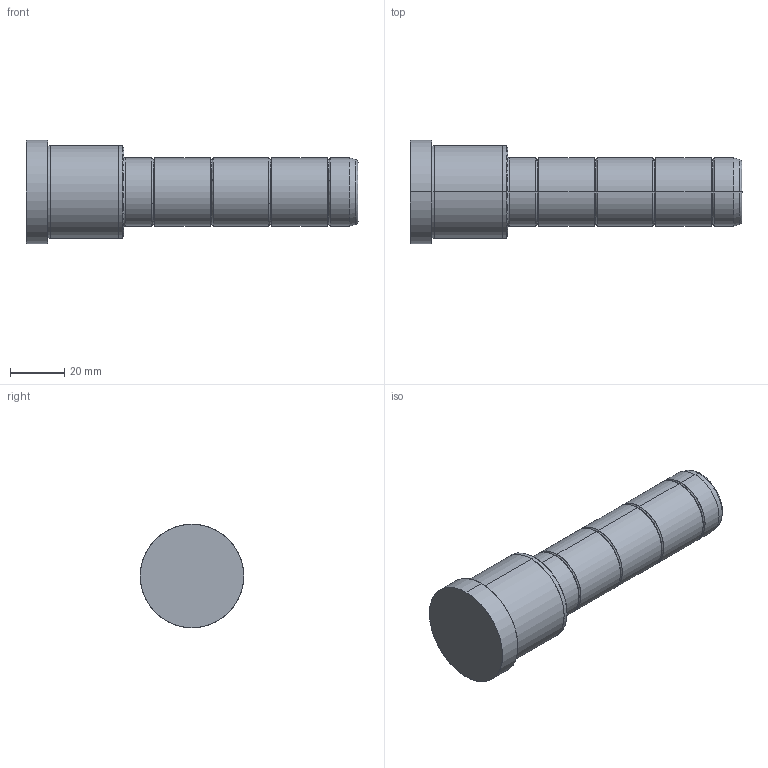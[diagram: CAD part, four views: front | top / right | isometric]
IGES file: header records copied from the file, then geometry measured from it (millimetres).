
Start section: SolidWorks IGES file using analytic representation for surfaces
Global section: file name: C:\Documents and Settings\kalite-mail\Desktop\IGS\D02\25\D02 - 25x36x86.IGS; native system: SolidWorks 2008; preprocessor: SolidWorks 2008; author: kalite-mail; date: 080616.172612; units: millimetre
Bounding box: 122 x 38 x 38 mm (x, y, z)
Surface area: 13013.1 mm2 (no closed solid volume)
Topology: 0 solids, 0 shells, 48 faces, 744 edges, 744 vertices
Faces by surface type: bspline 26, revolution 22
